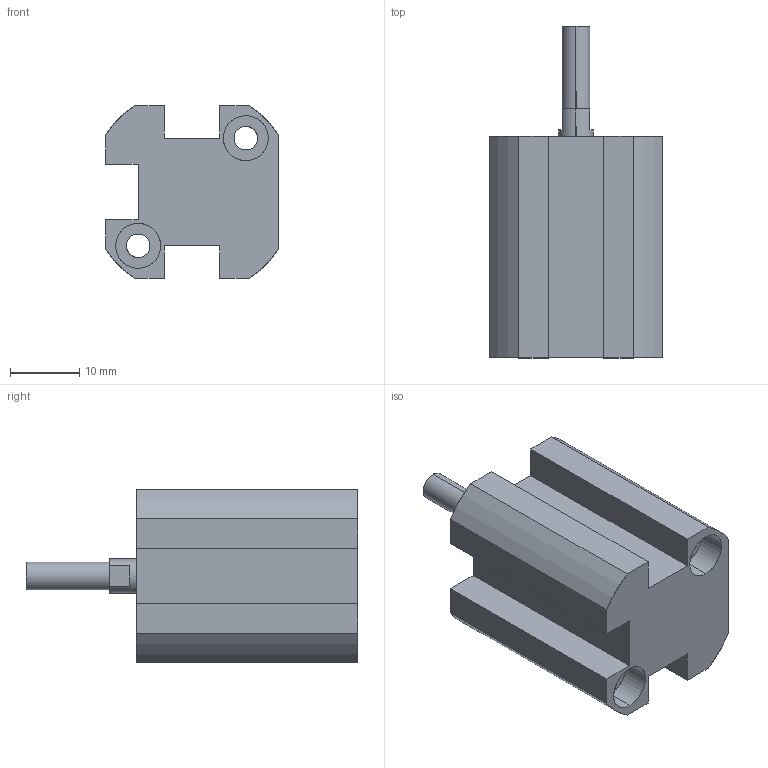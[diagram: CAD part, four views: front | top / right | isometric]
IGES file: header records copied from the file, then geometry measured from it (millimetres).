
Start section: SolidWorks IGES file using analytic representation for surfaces
Global section: file name: C:\Users\Toshiba\Desktop\XC#M2-10D-10.IGS; native system: SolidWorks 2014; preprocessor: SolidWorks 2014; author: Toshiba; date: 160523.164211; units: millimetre
Bounding box: 25 x 48 x 25 mm (x, y, z)
Surface area: 6247.8 mm2 (no closed solid volume)
Topology: 0 solids, 0 shells, 77 faces, 1217 edges, 1213 vertices
Faces by surface type: revolution 43, bspline 34
